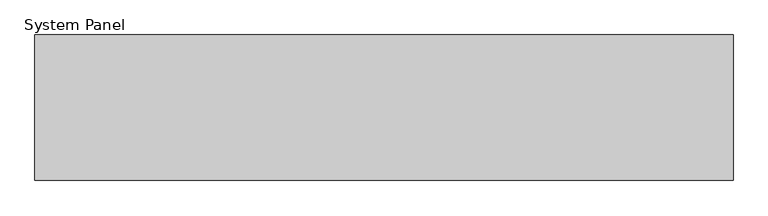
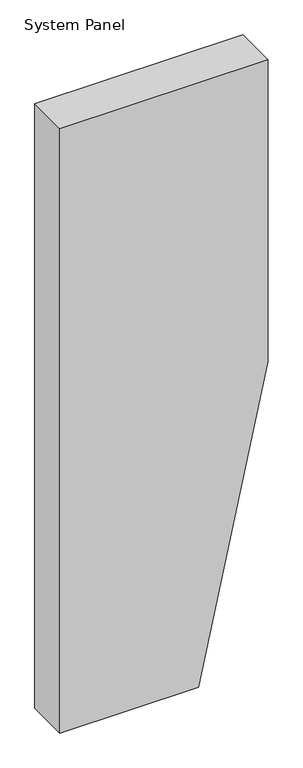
"""IFC4 building model written with IfcOpenShell, lengths in millimetres: plate geometry, System Panel : Equitilt_250mm_Plain_Surfmist."""

from ifc_helpers import new_model, si_unit, frame, origin, place, context, project, spatial, polyline, outline, extrude, source, transform, mapped, element, save


def system_panel_000577c3(model_context):
    return source(origin(), model_context, "Body", "SweptSolid", [
        extrude(outline(polyline([(0.0, -600.0), (0.0, 200.0), (1839.9852118, 600.0), (3679.9704237, 600.0), (3679.9704237, -600.0), (0.0, -600.0)])), frame((0.0, -250.0, 0.0), z_axis=(0.0, 1.0, 0.0), x_axis=(0.0, 0.0, 1.0)), (0.0, 0.0, 1.0), 250.0),
    ])


if __name__ == "__main__":
    model = new_model("IFC4")
    model_context = context("Model", 3, world=origin())
    ifc_project = project(units=[si_unit("LENGTHUNIT", "METRE", prefix="MILLI")], contexts=[model_context])
    site = spatial("IfcSite", under=ifc_project)
    building = spatial("IfcBuilding", under=site)
    placement = place(None, origin())
    system_panel_shape = system_panel_000577c3(model_context)
    element("IfcPlate", 1, ObjectType="System Panel : Equitilt_250mm_Plain_Surfmist", at=placement, inside=building, context=model_context, shape_type="MappedRepresentation", body=[
        mapped(system_panel_shape, transform((0.0, 0.0, 0.0), x_axis=(1.0, 0.0, 0.0), y_axis=(0.0, 1.0, 0.0), z_axis=(0.0, 0.0, 1.0))),
    ])
    save(model, "model.ifc")
